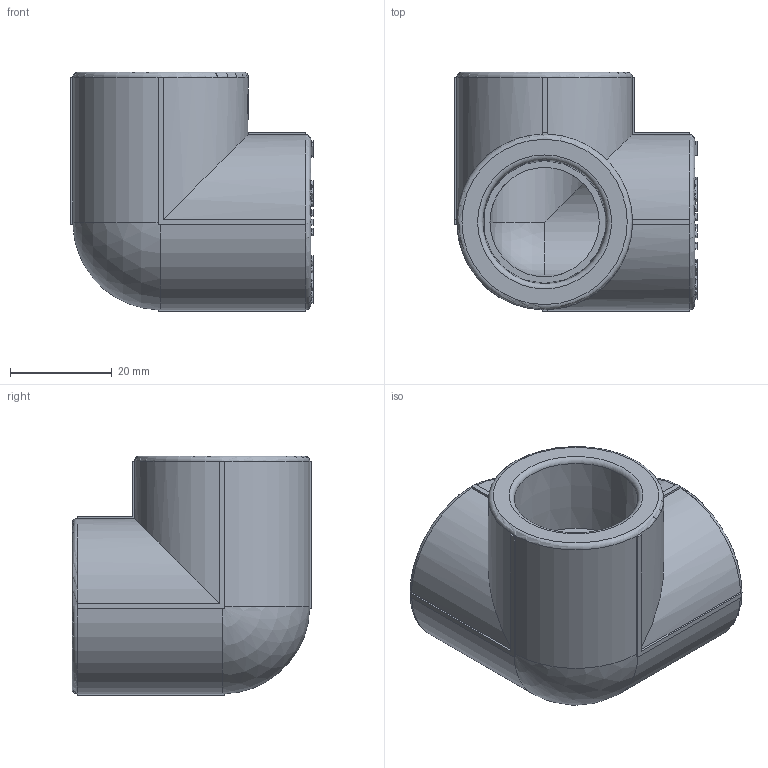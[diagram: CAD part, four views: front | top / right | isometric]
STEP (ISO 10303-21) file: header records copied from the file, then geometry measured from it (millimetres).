
FILE_DESCRIPTION(('STEP AP203'), '1');
FILE_NAME('ÂÐ.752248.002 - VTp.738.0.025', '', ('UNSPECIFIED'), ('UNSPECIFIED'), 'C3D Converter', 'C3D Toolkit', '');
FILE_SCHEMA(('CONFIG_CONTROL_DESIGN'));
Length unit declared in the file: millimetre
Products named in the file (1): ВР.752248.002
Bounding box: 47.65 x 47.15 x 47.15 mm (x, y, z)
Volume: 34489.4 mm3; surface area: 14156.7 mm2
Topology: 1 solids, 1 shells, 1059 faces, 2974 edges, 1972 vertices
Faces by surface type: extrusion 613, plane 395, cylinder 40, torus 6, cone 3, sphere 2
Full cylindrical faces by diameter (mm): 6 x1, 21.5 x3
Entity records: 38716 total; most frequent: CARTESIAN_POINT 14684, ORIENTED_EDGE 5920, DIRECTION 2991, EDGE_CURVE 2960, VECTOR 1991, VERTEX_POINT 1972, B_SPLINE_CURVE_WITH_KNOTS 1841, LINE 1378
